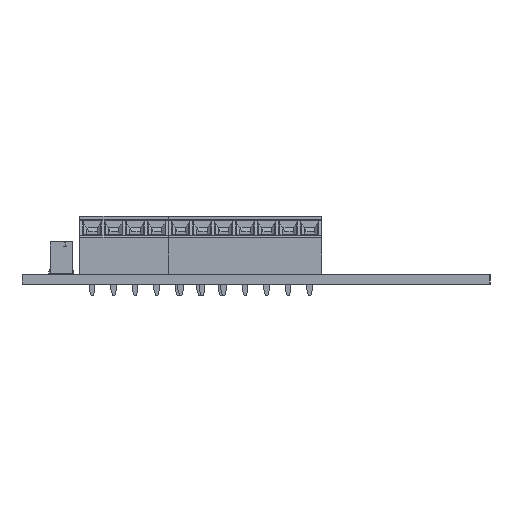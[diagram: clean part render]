
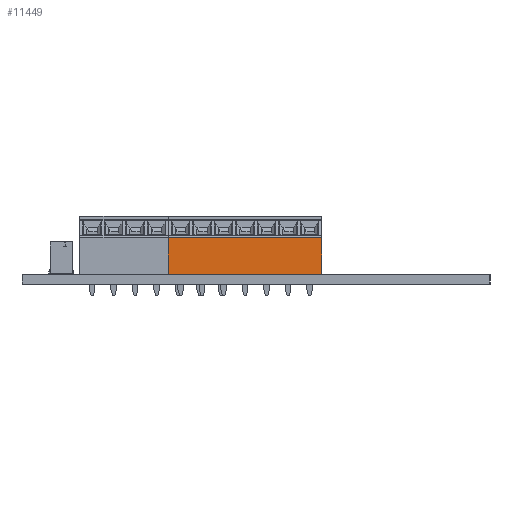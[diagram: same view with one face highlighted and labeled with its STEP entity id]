
A CAD part, left-side view. The second image highlights one B-rep face of the part: STEP entity #11449.
In plain terms, the highlighted planar face has unit normal (-1, 0, 0) as drawn and (1, 0, 0) by its records, which use the part's own axes.
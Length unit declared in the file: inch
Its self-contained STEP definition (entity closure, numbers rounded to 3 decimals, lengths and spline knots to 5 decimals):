
#735 = VECTOR ( 'NONE', #18727, 39.37008 ) ;
#1424 = VERTEX_POINT ( 'NONE', #3663 ) ;
#1746 = DIRECTION ( 'NONE',  ( 0., 1., 0. ) ) ;
#2857 = LINE ( 'NONE', #10270, #10167 ) ;
#3481 = LINE ( 'NONE', #6763, #21884 ) ;
#3663 = CARTESIAN_POINT ( 'NONE',  ( 0.3937, 0., 0. ) ) ;
#4222 = VERTEX_POINT ( 'NONE', #14252 ) ;
#5330 = DIRECTION ( 'NONE',  ( 0., 0., 1. ) ) ;
#5363 = LINE ( 'NONE', #14960, #735 ) ;
#5755 = FACE_OUTER_BOUND ( 'NONE', #19969, .T. ) ;
#6763 = CARTESIAN_POINT ( 'NONE',  ( 0.3937, 0.23573, -0.98425 ) ) ;
#6877 = EDGE_CURVE ( 'NONE', #16600, #7022, #3481, .T. ) ;
#7022 = VERTEX_POINT ( 'NONE', #9297 ) ;
#8087 = DIRECTION ( 'NONE',  ( 0., -1., 0. ) ) ;
#9297 = CARTESIAN_POINT ( 'NONE',  ( 0.3937, 0.23573, 0. ) ) ;
#10167 = VECTOR ( 'NONE', #8087, 39.37008 ) ;
#10270 = CARTESIAN_POINT ( 'NONE',  ( 0.3937, 0., -0.98425 ) ) ;
#10916 = CARTESIAN_POINT ( 'NONE',  ( 0.3937, 0., -0.49213 ) ) ;
#11103 = CARTESIAN_POINT ( 'NONE',  ( 0.3937, 0., -0.98425 ) ) ;
#11449 = ADVANCED_FACE ( 'NONE', ( #5755 ), #22524, .T. ) ;
#11682 = ORIENTED_EDGE ( 'NONE', *, *, #15121, .F. ) ;
#12916 = DIRECTION ( 'NONE',  ( 1., 0., 0. ) ) ;
#14169 = DIRECTION ( 'NONE',  ( 0., 0., 1. ) ) ;
#14252 = CARTESIAN_POINT ( 'NONE',  ( 0.3937, 0., -0.98425 ) ) ;
#14923 = ORIENTED_EDGE ( 'NONE', *, *, #6877, .T. ) ;
#14960 = CARTESIAN_POINT ( 'NONE',  ( 0.3937, 0.24598, 0. ) ) ;
#15121 = EDGE_CURVE ( 'NONE', #1424, #7022, #5363, .T. ) ;
#15779 = CARTESIAN_POINT ( 'NONE',  ( 0.3937, 0.23573, -0.98425 ) ) ;
#16600 = VERTEX_POINT ( 'NONE', #15779 ) ;
#18502 = AXIS2_PLACEMENT_3D ( 'NONE', #11103, #12916, #1746 ) ;
#18630 = EDGE_CURVE ( 'NONE', #4222, #1424, #21987, .T. ) ;
#18727 = DIRECTION ( 'NONE',  ( 0., 1., 0. ) ) ;
#19229 = ORIENTED_EDGE ( 'NONE', *, *, #18630, .F. ) ;
#19969 = EDGE_LOOP ( 'NONE', ( #22232, #14923, #11682, #19229 ) ) ;
#21645 = EDGE_CURVE ( 'NONE', #16600, #4222, #2857, .T. ) ;
#21748 = VECTOR ( 'NONE', #5330, 39.37008 ) ;
#21884 = VECTOR ( 'NONE', #14169, 39.37008 ) ;
#21987 = LINE ( 'NONE', #10916, #21748 ) ;
#22232 = ORIENTED_EDGE ( 'NONE', *, *, #21645, .F. ) ;
#22524 = PLANE ( 'NONE',  #18502 ) ;
